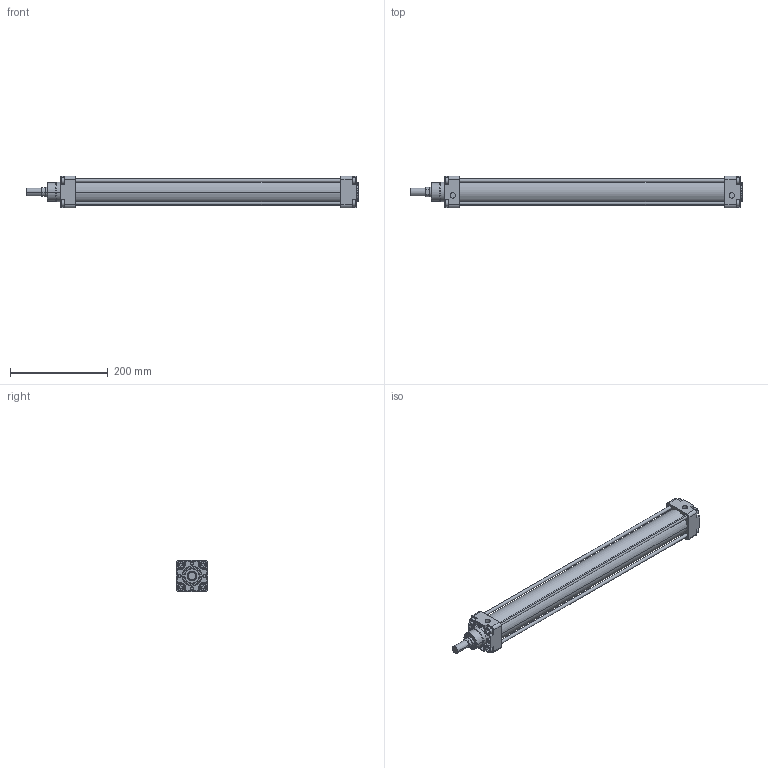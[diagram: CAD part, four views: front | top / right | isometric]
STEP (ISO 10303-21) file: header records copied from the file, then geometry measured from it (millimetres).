
FILE_DESCRIPTION(('CATIA V5 STEP Exchange'),'2;1');
FILE_NAME('D:\stp file for catalog\PNC\50\PNC 50-20-500.stp','2015-10-14T13:10:24+00:00',('none'),('none'),'Version 5-6 Release 2012','CATIA V5 STEP AP203','none');
FILE_SCHEMA(('CONFIG_CONTROL_DESIGN'));
Length unit declared in the file: millimetre
Products named in the file (1): PNC 50-20-500-00
Assembly tree (2 placements, depth 2):
  PNC 50-20-500-00
    #58
    #14116
Bounding box: 681 x 65 x 65 mm (x, y, z)
Volume: 760627.9 mm3; surface area: 341102.1 mm2
Topology: 6 solids, 6 shells, 536 faces, 1334 edges, 870 vertices
Faces by surface type: plane 324, cylinder 168, torus 26, extrusion 16, cone 2
Entity records: 14540 total; most frequent: CARTESIAN_POINT 2873, ORIENTED_EDGE 2668, DIRECTION 1792, EDGE_CURVE 1334, VECTOR 878, VERTEX_POINT 870, LINE 862, AXIS2_PLACEMENT_3D 661
